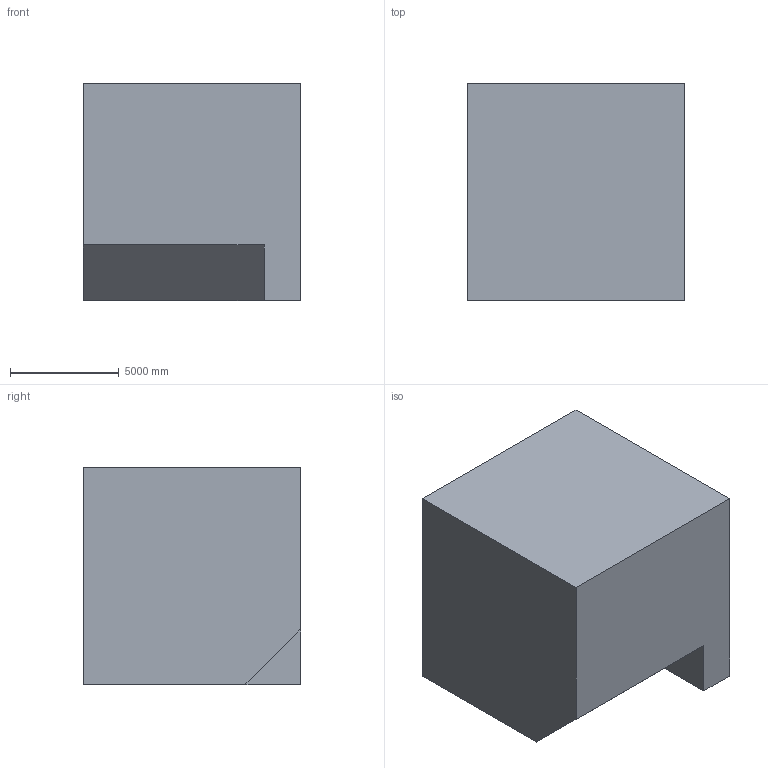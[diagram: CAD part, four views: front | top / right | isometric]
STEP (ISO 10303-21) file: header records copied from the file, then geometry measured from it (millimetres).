
FILE_DESCRIPTION (( 'STEP AP203' ), '1' );
FILE_NAME ('1128.STEP', '2022-08-18T12:52:17', ( 'user' ), ( '' ), 'SwSTEP 2.0', 'SolidWorks 2021', '' );
FILE_SCHEMA (( 'CONFIG_CONTROL_DESIGN' ));
Length unit declared in the file: centimetre
Products named in the file (1): 1128
Bounding box: 10000 x 10000 x 10000 mm (x, y, z)
Volume: 913327404868.9 mm3; surface area: 600102425.2 mm2
Topology: 1 solids, 1 shells, 12 faces, 30 edges, 20 vertices
Faces by surface type: plane 10, cylinder 2
Entity records: 435 total; most frequent: CARTESIAN_POINT 63, ORIENTED_EDGE 60, DIRECTION 60, EDGE_CURVE 30, VECTOR 26, LINE 26, VERTEX_POINT 20, AXIS2_PLACEMENT_3D 17
